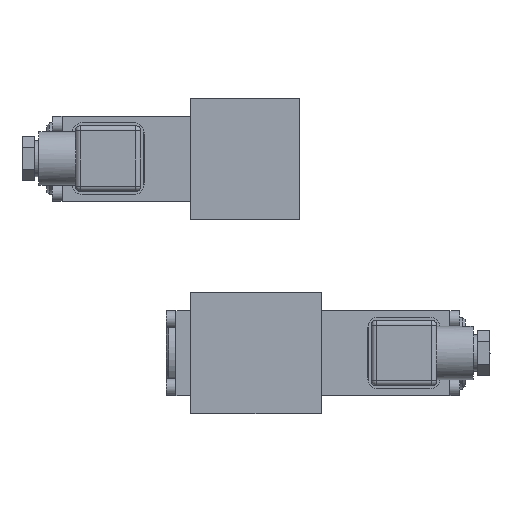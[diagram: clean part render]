
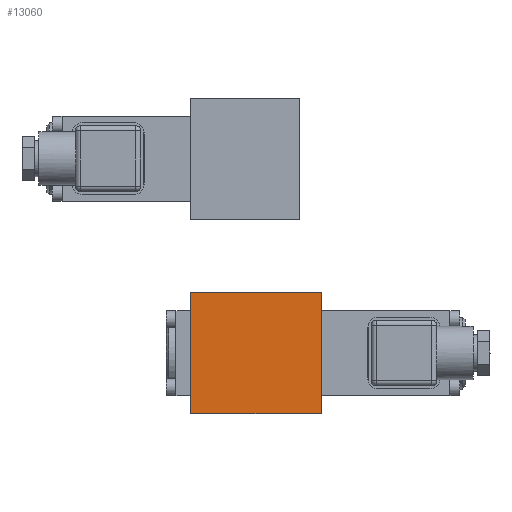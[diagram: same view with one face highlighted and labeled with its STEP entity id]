
A CAD part, top view. The second image highlights one B-rep face of the part: STEP entity #13060.
In plain terms, the highlighted planar face has unit normal (0, 0, 1).
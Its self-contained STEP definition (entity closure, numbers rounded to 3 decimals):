
#13060=ADVANCED_FACE('', (#13070), #13080, .T.);
#43080=AXIS2_PLACEMENT_3D('Ax2Pl3d', #43090, #43100, #43110);
#62730=CARTESIAN_POINT('', (54.,50.,50.));
#62740=CARTESIAN_POINT('', (54.,0.,50.));
#62750=CARTESIAN_POINT('', (54.,0.,50.));
#62930=CARTESIAN_POINT('', (0.,0.,50.));
#62940=CARTESIAN_POINT('', (0.,0.,50.));
#62950=CARTESIAN_POINT('', (0.,50.,50.));
#63060=CARTESIAN_POINT('', (0.,50.,50.));
#63130=CARTESIAN_POINT('', (0.,0.,50.));
#43090=CARTESIAN_POINT('HicPkt', (54.,50.,50.));
#75510=DIRECTION('', (0.,-1.,0.));
#75560=DIRECTION('', (0.,-1.,0.));
#75590=DIRECTION('', (-1.,0.,0.));
#75610=DIRECTION('', (-1.,0.,0.));
#43100=DIRECTION('Axis', (0.,0.,1.));
#43110=DIRECTION('RefDirection', (1.,0.,0.));
#92570=EDGE_CURVE('', #92550, #92580, #92590, .T.);
#92920=EDGE_CURVE('', #92930, #92900, #92940, .T.);
#93150=EDGE_CURVE('', #92550, #92930, #93160, .T.);
#93270=EDGE_CURVE('', #92580, #92900, #93280, .T.);
#118130=EDGE_LOOP('Edge_loop', (#118140,#118150,#118160,#118170));
#13070=FACE_OUTER_BOUND('Face_outer_bound', #118130, .T.);
#92590=LINE('Line', #62740, #131550);
#92940=LINE('Line', #62940, #131600);
#93160=LINE('Line', #63060, #131630);
#93280=LINE('Line', #63130, #131650);
#118140=ORIENTED_EDGE('', *, *, #93150, .T.);
#118150=ORIENTED_EDGE('', *, *, #92920, .T.);
#118160=ORIENTED_EDGE('', *, *, #93270, .F.);
#118170=ORIENTED_EDGE('', *, *, #92570, .F.);
#13080=PLANE('Plane', #43080);
#131550=VECTOR('', #75510, 50.);
#131600=VECTOR('', #75560, 50.);
#131630=VECTOR('', #75590, 54.);
#131650=VECTOR('', #75610, 54.);
#92550=VERTEX_POINT('', #62730);
#92580=VERTEX_POINT('', #62750);
#92900=VERTEX_POINT('', #62930);
#92930=VERTEX_POINT('', #62950);
